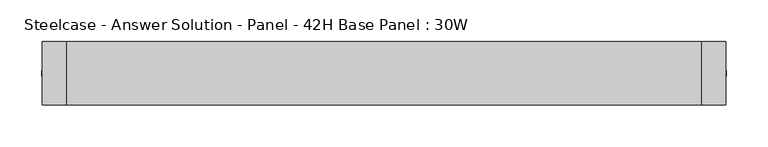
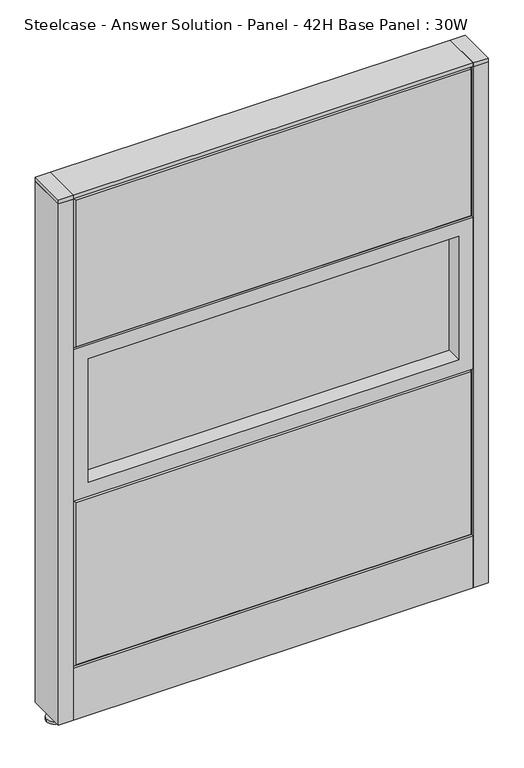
"""IFC4 building model written with IfcOpenShell, lengths in millimetres: furniture geometry, Steelcase - Answer Solution - Panel - 42H Base Panel : 30W."""

from ifc_helpers import new_model, si_unit, point, frame, frame_2d, origin, place, context, project, spatial, polyline, circle_curve, trimmed, segment, composite_curve, outline, extrude, faceted_brep, source, transform, mapped, element, save


def steelcase_answer_solution_panel_42h_base_panel_30w_57d0b9a1(model_context):
    return source(origin(), model_context, "Body", "SolidModel", [
        extrude(outline(composite_curve([segment(trimmed(circle_curve(frame_2d((395.224, 0.0039657)), 5.08), [point((400.304, 0.0039657))], [point((390.144, 0.0039657))], False, "CARTESIAN"), True, "CONTINUOUS"), segment(trimmed(circle_curve(frame_2d((395.224, 0.0039657)), 5.08), [point((390.144, 0.0039657))], [point((400.304, 0.0039657))], False, "CARTESIAN"), True, "CONTINUOUS")], self_intersect=False)), frame((0.0, 0.0, 5.0799671), z_axis=(0.0, 0.0, 1.0), x_axis=(1.0, 0.0, 0.0)), (0.0, 0.0, 1.0), 10.414),
        extrude(outline(composite_curve([segment(trimmed(circle_curve(frame_2d((395.224, 0.0039657)), 15.24), [point((410.464, 0.0039657))], [point((379.984, 0.0039657))], False, "CARTESIAN"), True, "CONTINUOUS"), segment(trimmed(circle_curve(frame_2d((395.224, 0.0039657)), 15.24), [point((379.984, 0.0039657))], [point((410.464, 0.0039657))], False, "CARTESIAN"), True, "CONTINUOUS")], self_intersect=False)), frame((0.0, 0.0, -3.29e-05), z_axis=(0.0, 0.0, 1.0), x_axis=(1.0, 0.0, 0.0)), (0.0, 0.0, 1.0), 5.08),
        extrude(outline(polyline([(409.575, 38.1039851), (409.575, -38.0960149), (381.0, -38.0960149), (381.0, 38.1039851), (409.575, 38.1039851)])), frame((0.0, 0.0, 1065.8348), z_axis=(0.0, 0.0, 1.0), x_axis=(1.0, 0.0, 0.0)), (0.0, 0.0, 1.0), 7.3151671),
        extrude(outline(polyline([(409.575, 38.1039851), (409.575, -38.0960149), (381.0, -38.0960149), (381.0, 38.1039851), (409.575, 38.1039851)])), frame((0.0, 0.0, 15.4939671), z_axis=(0.0, 0.0, 1.0), x_axis=(1.0, 0.0, 0.0)), (0.0, 0.0, 1.0), 1050.3408329),
        extrude(outline(composite_curve([segment(trimmed(circle_curve(frame_2d((-395.224, 0.0039657)), 5.08), [point((-400.304, 0.0039657))], [point((-390.144, 0.0039657))], False, "CARTESIAN"), True, "CONTINUOUS"), segment(trimmed(circle_curve(frame_2d((-395.224, 0.0039657)), 5.08), [point((-390.144, 0.0039657))], [point((-400.304, 0.0039657))], False, "CARTESIAN"), True, "CONTINUOUS")], self_intersect=False)), frame((0.0, 0.0, 5.0799671), z_axis=(0.0, 0.0, 1.0), x_axis=(1.0, 0.0, 0.0)), (0.0, 0.0, 1.0), 10.414),
        extrude(outline(composite_curve([segment(trimmed(circle_curve(frame_2d((-395.224, 0.0039657)), 15.24), [point((-410.464, 0.0039657))], [point((-379.984, 0.0039657))], False, "CARTESIAN"), True, "CONTINUOUS"), segment(trimmed(circle_curve(frame_2d((-395.224, 0.0039657)), 15.24), [point((-379.984, 0.0039657))], [point((-410.464, 0.0039657))], False, "CARTESIAN"), True, "CONTINUOUS")], self_intersect=False)), frame((0.0, 0.0, -3.29e-05), z_axis=(0.0, 0.0, 1.0), x_axis=(1.0, 0.0, 0.0)), (0.0, 0.0, 1.0), 5.08),
        extrude(outline(polyline([(-409.575, 38.1039851), (-381.0, 38.1039851), (-381.0, -38.0960149), (-409.575, -38.0960149), (-409.575, 38.1039851)])), frame((0.0, 0.0, 1065.8348), z_axis=(0.0, 0.0, 1.0), x_axis=(1.0, 0.0, 0.0)), (0.0, 0.0, 1.0), 7.3151671),
        extrude(outline(polyline([(-409.575, 38.1039851), (-381.0, 38.1039851), (-381.0, -38.0960149), (-409.575, -38.0960149), (-409.575, 38.1039851)])), frame((0.0, 0.0, 15.4939671), z_axis=(0.0, 0.0, 1.0), x_axis=(1.0, 0.0, 0.0)), (0.0, 0.0, 1.0), 1050.3408329),
        extrude(outline(polyline([(-353.06, 6.346049), (353.06, 6.346049), (353.06, -6.353951), (-353.06, -6.353951), (-353.06, 6.346049)])), frame((0.0, 0.0, 485.14), z_axis=(0.0, 0.0, 1.0), x_axis=(1.0, 0.0, 0.0)), (0.0, 0.0, 1.0), 248.92),
        extrude(outline(polyline([(762.0, -381.0), (457.2, -381.0), (457.2, 381.0), (762.0, 381.0), (762.0, -381.0)]), holes=[polyline([(734.06, -353.06), (734.06, 353.06), (485.14, 353.06), (485.14, -353.06), (734.06, -353.06)])]), frame((0.0, -38.103951, 0.0), z_axis=(0.0, 1.0, 0.0), x_axis=(0.0, 0.0, 1.0)), (0.0, 0.0, 1.0), 76.2),
        faceted_brep([(-376.174, 38.1635011, 1061.974), (376.174, 38.1635011, 1061.974), (376.174, 38.1635011, 766.826), (-376.174, 38.1635011, 766.826), (-381.0, 33.3375011, 1066.8), (-381.0, 33.3375011, 762.0), (381.0, 33.3375011, 762.0), (381.0, 33.3375011, 1066.8)], [[[0, 1, 2, 3]], [[4, 5, 6, 7]], [[4, 7, 1, 0]], [[7, 6, 2, 1]], [[6, 5, 3, 2]], [[5, 4, 0, 3]]]),
        faceted_brep([(-376.174, 38.1635011, 452.374), (376.174, 38.1635011, 452.374), (376.174, 38.1635011, 125.476), (-376.174, 38.1635011, 125.476), (-381.0, 33.3375011, 457.2), (-381.0, 33.3375011, 120.65), (381.0, 33.3375011, 120.65), (381.0, 33.3375011, 457.2)], [[[0, 1, 2, 3]], [[4, 5, 6, 7]], [[4, 7, 1, 0]], [[7, 6, 2, 1]], [[6, 5, 3, 2]], [[5, 4, 0, 3]]]),
        extrude(outline(polyline([(353.06, -6.346049), (-353.06, -6.346049), (-353.06, 6.353951), (353.06, 6.353951), (353.06, -6.346049)])), frame((0.0, 0.0, 485.14), z_axis=(0.0, 0.0, 1.0), x_axis=(1.0, 0.0, 0.0)), (0.0, 0.0, 1.0), 248.92),
        extrude(outline(polyline([(762.0, 381.0), (762.0, -381.0), (457.2, -381.0), (457.2, 381.0), (762.0, 381.0)]), holes=[polyline([(734.06, 353.06), (485.14, 353.06), (485.14, -353.06), (734.06, -353.06), (734.06, 353.06)])]), frame((0.0, -38.096049, 0.0), z_axis=(0.0, 1.0, 0.0), x_axis=(0.0, 0.0, 1.0)), (0.0, 0.0, 1.0), 76.2),
        faceted_brep([(376.174, -38.1635011, 1061.974), (-376.174, -38.1635011, 1061.974), (-376.174, -38.1635011, 766.826), (376.174, -38.1635011, 766.826), (381.0, -33.3375011, 1066.8), (381.0, -33.3375011, 762.0), (-381.0, -33.3375011, 762.0), (-381.0, -33.3375011, 1066.8)], [[[0, 1, 2, 3]], [[4, 5, 6, 7]], [[4, 7, 1, 0]], [[7, 6, 2, 1]], [[6, 5, 3, 2]], [[5, 4, 0, 3]]]),
        faceted_brep([(376.174, -38.1635011, 452.374), (-376.174, -38.1635011, 452.374), (-376.174, -38.1635011, 125.476), (376.174, -38.1635011, 125.476), (381.0, -33.3375011, 457.2), (381.0, -33.3375011, 120.65), (-381.0, -33.3375011, 120.65), (-381.0, -33.3375011, 457.2)], [[[0, 1, 2, 3]], [[4, 5, 6, 7]], [[4, 7, 1, 0]], [[7, 6, 2, 1]], [[6, 5, 3, 2]], [[5, 4, 0, 3]]]),
        extrude(outline(polyline([(381.0, 38.1000194), (381.0, -38.1000194), (-381.0, -38.1000194), (-381.0, 38.1000194), (381.0, 38.1000194)])), frame((0.0, 0.0, 1066.8), z_axis=(0.0, 0.0, 1.0), x_axis=(1.0, 0.0, 0.0)), (0.0, 0.0, 1.0), 6.35),
        extrude(outline(polyline([(25.4000011, 119.8575157), (25.4000011, 120.65), (38.1000194, 120.65), (38.1000194, 15.494), (37.3075215, 15.494), (37.3075215, 119.8575157), (25.4000011, 119.8575157)])), frame((-381.0, 0.0, 0.0), z_axis=(1.0, 0.0, 0.0), x_axis=(0.0, 1.0, 0.0)), (0.0, 0.0, 1.0), 762.0),
        extrude(outline(polyline([(-25.4000011, 119.8575157), (-37.3075215, 119.8575157), (-37.3075215, 15.494), (-38.1000194, 15.494), (-38.1000194, 120.65), (-25.4000011, 120.65), (-25.4000011, 119.8575157)])), frame((-381.0, 0.0, 0.0), z_axis=(1.0, 0.0, 0.0), x_axis=(0.0, 1.0, 0.0)), (0.0, 0.0, 1.0), 762.0),
    ])


if __name__ == "__main__":
    model = new_model("IFC4")
    model_context = context("Model", 3, world=origin())
    ifc_project = project(units=[si_unit("LENGTHUNIT", "METRE", prefix="MILLI")], contexts=[model_context])
    site = spatial("IfcSite", under=ifc_project)
    building = spatial("IfcBuilding", under=site)
    placement = place(None, origin())
    steelcase_answer_solution_panel_42h_base_panel_30w_shape = steelcase_answer_solution_panel_42h_base_panel_30w_57d0b9a1(model_context)
    element("IfcFurniture", 1, ObjectType="Steelcase - Answer Solution - Panel - 42H Base Panel : 30W", at=placement, inside=building, context=model_context, shape_type="MappedRepresentation", body=[
        mapped(steelcase_answer_solution_panel_42h_base_panel_30w_shape, transform((0.0, 0.0, 0.0), x_axis=(1.0, 0.0, 0.0), y_axis=(0.0, 1.0, 0.0), z_axis=(0.0, 0.0, 1.0))),
    ])
    save(model, "model.ifc")
